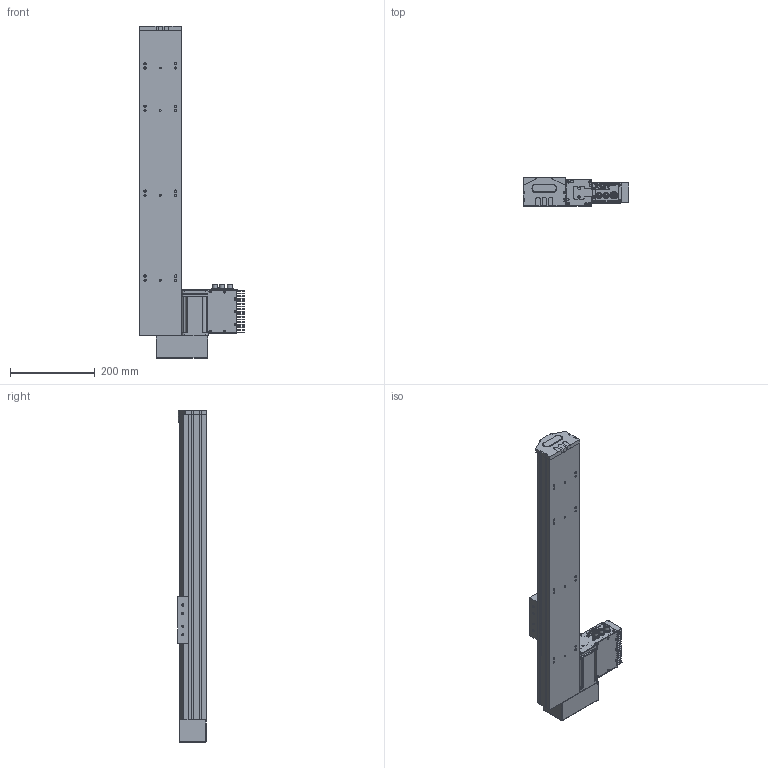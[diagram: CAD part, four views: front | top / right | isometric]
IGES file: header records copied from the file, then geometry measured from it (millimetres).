
Start section: SolidWorks IGES file using analytic representation for surfaces
Global section: file name: C:\Documents and Settings\1EDPI\Mes documents\yanize\S 10 TSH BR\S 10 TSH BR S500.IGS; native system: SolidWorks 2010; preprocessor: SolidWorks 2010; author: 1EDPI; date: 120904.142737; units: millimetre
Bounding box: 249.35 x 66.83 x 782 mm (x, y, z)
Surface area: 658713.7 mm2 (no closed solid volume)
Topology: 0 solids, 0 shells, 1974 faces, 26476 edges, 26444 vertices
Faces by surface type: revolution 1047, bspline 927
